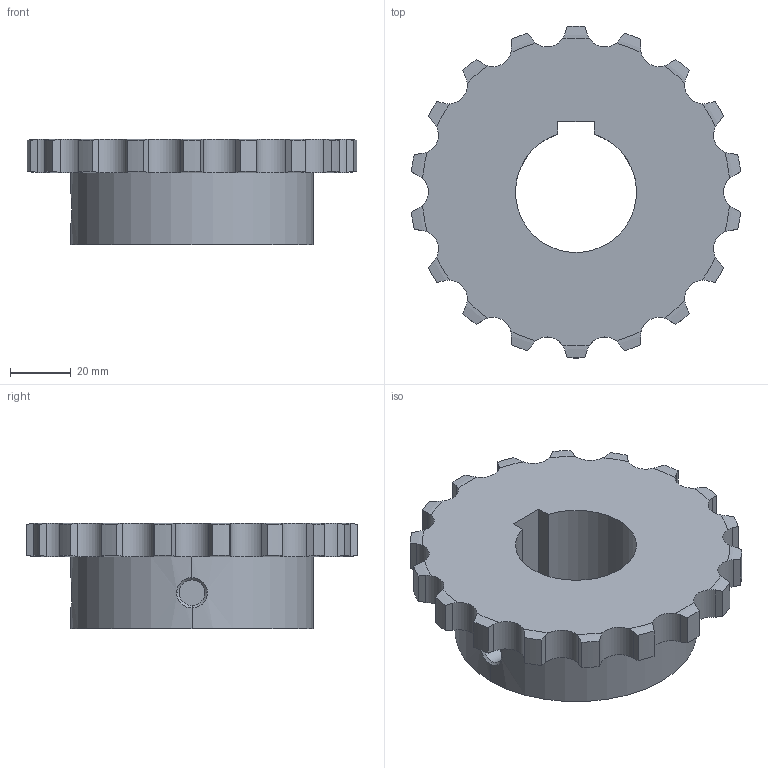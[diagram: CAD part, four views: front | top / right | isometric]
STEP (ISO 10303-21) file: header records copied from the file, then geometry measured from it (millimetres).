
FILE_DESCRIPTION((''),'2;1');
FILE_NAME('510-401-4018_PRT','2021-02-13T',('Brieden'),('Brieden'),'PRO/ENGINEER BY PARAMETRIC TECHNOLOGY CORPORATION, 2010160','PRO/ENGINEER BY PARAMETRIC TECHNOLOGY CORPORATION, 2010160','');
FILE_SCHEMA(('AUTOMOTIVE_DESIGN { 1 0 10303 214 1 1 1 1 }'));
Length unit declared in the file: millimetre
Products named in the file (1): 510-401-4018_PRT
Bounding box: 108.9 x 109.69 x 35 mm (x, y, z)
Volume: 166306.6 mm3; surface area: 30396.3 mm2
Topology: 1 solids, 1 shells, 129 faces, 369 edges, 244 vertices
Faces by surface type: cylinder 79, torus 36, plane 8, bspline 6
Entity records: 6340 total; most frequent: CARTESIAN_POINT 2001, ORIENTED_EDGE 738, DIRECTION 577, PRESENTATION_STYLE_ASSIGNMENT 370, STYLED_ITEM 370, CURVE_STYLE 369, EDGE_CURVE 369, VERTEX_POINT 244
